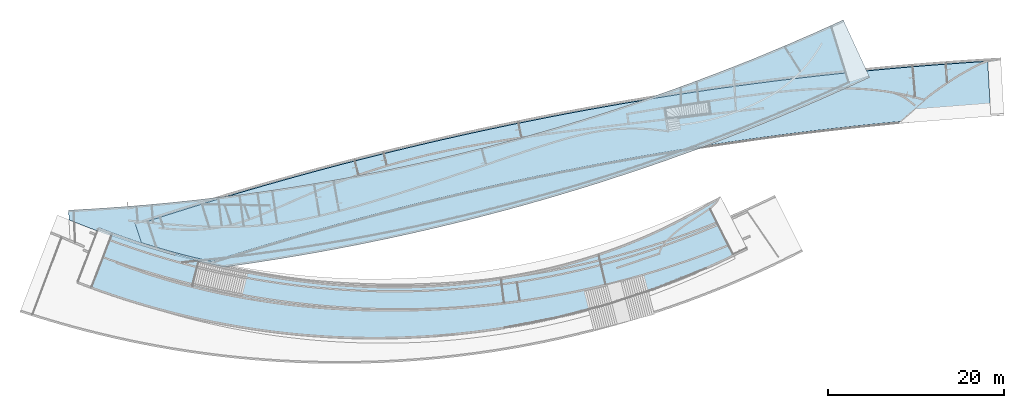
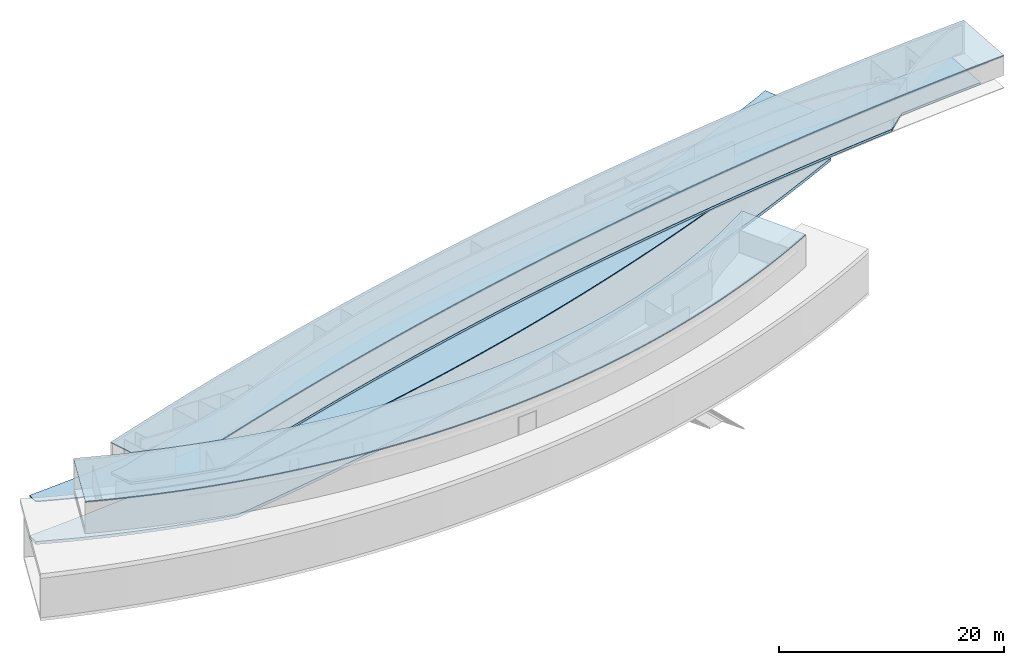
# Not in any storey, part 2 of 16: 6 slabs, 2 openings.
"""IFC2X3 model written with IfcOpenShell, lengths in millimetres."""

from ifc_helpers import new_model, entity, si_unit, converted_unit, point, direction, frame, frame_2d, origin_with_axes, place, context, project, spatial, polyline, circle_curve, trimmed, segment, composite_curve, outline, extrude, material, layer, layer_set, type_object, element, save


model = new_model("IFC2X3")

# Units and contexts
model_context = context("Model", 3, precision=1.0, world=origin_with_axes(), true_north=direction((0.0, 1.0)))
ifc_project = project(units=[converted_unit("PLANEANGLEUNIT", "DEGREE", entity("IfcRatioMeasure", 0.017453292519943), si_unit("PLANEANGLEUNIT", "RADIAN"), dimensions=[0, 0, 0, 0, 0, 0, 0]), si_unit("LENGTHUNIT", "METRE", prefix="MILLI")], contexts=[model_context])

# Site
site_placement = place(None, origin_with_axes())
site = spatial("IfcSite", under=ifc_project, at=site_placement, Name="Site", CompositionType="ELEMENT")

# Slabs
ifc_material_1 = material(Name="Slab layer 1")
ifc_layer_1 = layer(ifc_material_1, 320.0)
ifc_layer_set_1 = layer_set([ifc_layer_1], Name="HOKI 1FB")
slab_type_1 = type_object("IfcSlabType", Name="HOKI 1FB", PredefinedType="FLOOR", material=ifc_layer_set_1)
slab_1_placement = place(site_placement, frame((33904.2471701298, 18996.7153902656, 4720.00566737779), z_axis=(0.0, 0.0, 1.0), x_axis=(-0.908151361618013, -0.418641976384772, 0.0)))
element("IfcSlab", 1, at=slab_1_placement, inside=site, type_object=slab_type_1, ObjectType="HOKI 1FB", PredefinedType="FLOOR", context=model_context, shape_type="SweptSolid", body=[
    extrude(outline(composite_curve([segment(polyline([(75580.1296516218, 3959.976035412), (76049.9234560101, 4306.54949842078), (76517.300696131, 4655.68838417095), (76982.2410070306, 5007.36813499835), (77444.7243485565, 5361.56398669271), (77904.7310078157, 5718.25097375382), (78362.241601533, 6077.40393467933), (78817.2370783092, 6438.99751728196), (79269.698720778, 6803.00618403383), (79719.6081476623, 7169.4042174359), (80166.9473157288, 7538.1657254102), (80611.6985216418, 7909.26464671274), (81053.8444037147, 8282.67475636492), (81493.3679435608, 8658.36967110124), (81930.2524676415, 9036.32285483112), (82364.4816487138, 9416.50762411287), (82796.0395071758, 9798.89715363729), (83224.9104123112, 10183.4644817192), (83651.0790834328, 10570.1825157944), (84074.5305909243, 10959.0240379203), (84495.2503571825, 11349.9617102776), (84913.224157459, 11742.9680806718), (85328.4381206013, 12138.0155880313), (85740.8787296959, 12535.0765679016), (86150.5328226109, 12934.1232579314), (86557.3875924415, 13335.1278033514), (86961.4305878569, 13738.0622624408), (87362.6497133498, 14142.8986119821), (87761.0332293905, 14549.6087527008), (88156.5697524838, 14958.1645146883), (88549.2482551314, 15368.5376628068), (88939.0580657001, 15780.6999020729), (89325.988868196, 16194.6228830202)]), True, "CONTINUOUS"), segment(polyline([(89325.988868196, 16194.6228830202), (88920.2873660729, 17203.8370704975)]), True, "CONTINUOUS"), segment(trimmed(circle_curve(frame_2d((2.91038e-10, 238399.999999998), x_axis=(0.37298778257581, -0.927836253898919)), 238399.999999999), [point((88920.2873660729, 17203.8370704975))], [point((0.0, 0.0))], False, "CARTESIAN"), True, "CONTINUOUS"), segment(polyline([(0.0, 0.0), (-4.0018e-11, -7180.77555804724)]), True, "CONTINUOUS"), segment(trimmed(circle_curve(frame_2d((905.658354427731, 248617.621197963), x_axis=(-0.003540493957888, -0.999993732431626)), 255800.0), [point((-4.0018e-11, -7180.77555804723))], [point((75580.1296516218, 3959.97603541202))], True, "CARTESIAN"), True, "CONTINUOUS")], self_intersect="UNKNOWN")), frame((0.0, 0.0, -320.0), z_axis=(0.0, 0.0, -1.0), x_axis=(1.0, 0.0, 0.0)), (0.0, 0.0, -1.0), 320.0),
])
ifc_material_2 = material(Name="Slab layer 1")
ifc_layer_2 = layer(ifc_material_2, 100.0)
ifc_layer_set_2 = layer_set([ifc_layer_2], Name="HOKI slab")
slab_type_2 = type_object("IfcSlabType", Name="HOKI slab", PredefinedType="FLOOR", material=ifc_layer_set_2)
slab_2_placement = place(site_placement, frame((-42975.4483566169, -10109.9417746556, 12800.0), z_axis=(0.0, 0.0, 1.0), x_axis=(-0.314163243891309, 0.949368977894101, 0.0)))
element("IfcSlab", 2, at=slab_2_placement, inside=site, type_object=slab_type_2, ObjectType="HOKI slab", PredefinedType="FLOOR", context=model_context, shape_type="SweptSolid", body=[
    extrude(outline(composite_curve([segment(polyline([(3487.55827410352, 3.638e-12), (3026.26912833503, 669.085234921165), (2571.24312380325, 1342.44592134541), (2122.51862550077, 2020.02261602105), (1680.13399842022, 2701.75587569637), (1244.12760755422, 3387.58625711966), (814.537817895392, 4077.45431703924), (391.402994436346, 4771.3006122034), (-25.2384978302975, 5469.06569936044)]), True, "CONTINUOUS"), segment(polyline([(-25.2384978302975, 5469.06569936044), (-44.6927169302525, 6875.70976256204), (-69.4562362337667, 8282.56209764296), (-99.5317724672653, 9689.59272156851), (-134.921817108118, 11096.7716196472), (-175.628635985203, 12504.0687476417), (-221.654268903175, 13911.4540338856), (-273.000529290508, 15318.8973814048), (-329.669003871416, 16726.368670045), (-391.661052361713, 18133.8377586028), (-458.977807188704, 19541.2744869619), (-531.620173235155, 20948.6486782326), (-609.588827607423, 22355.9301408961), (-692.884219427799, 23763.0886709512), (-781.506569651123, 25170.0940540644), (-875.45587090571, 26576.9160677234), (-974.73188735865, 27983.5244833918), (-1079.3341546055, 29389.8890686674), (-1189.26197958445, 30795.9795894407), (-1304.51444051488, 32201.7658120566), (-1425.09038686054, 33607.2175054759), (-1550.9884393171, 35012.3044434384), (-1682.20698982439, 36416.9964066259), (-1818.74420160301, 37821.2631848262), (-1960.59800921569, 39225.0745790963), (-2107.76611865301, 40628.4004039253), (-2260.2460074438, 42031.2104893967), (-2418.03492479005, 43433.4746833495), (-2581.12989172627, 44835.1628535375), (-2749.52770130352, 46236.2448897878), (-2923.22491879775, 47636.6907061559), (-3102.2178819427, 49036.4702430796), (-3286.50270118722, 50435.5534695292), (-3476.07525997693, 51833.9103851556), (-3670.93121506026, 53231.5110224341), (-3871.06599681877, 54628.3254488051), (-4076.47480962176, 56024.3237688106), (-4287.15263220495, 57419.4761262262), (-4503.09421807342, 58813.752706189), (-4724.29409592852, 60207.1237373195), (-4950.74657011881, 61599.5594938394), (-5182.44572111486, 62991.0302976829), (-5419.3854060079, 64381.5065206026), (-5661.55925903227, 65770.9585862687), (-5908.96069211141, 67159.3569723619), (-6161.58289542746, 68546.6722126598), (-6419.41883801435, 69932.8748991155), (-6682.46126837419, 71317.935683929), (-6950.70271511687, 72701.8252816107), (-7224.13548762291, 74084.5144710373), (-7502.75167672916, 75465.9740974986), (-7786.5431554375, 76846.1750747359), (-8075.50157964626, 78225.0883869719), (-8369.61838890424, 79602.6850909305), (-8668.88480718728, 80978.9363178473), (-8973.29184369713, 82353.8132754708), (-9282.8302936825, 83727.2872500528), (-9597.49073928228, 85099.3296083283), (-9917.26355039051, 86469.9117994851), (-10242.1388855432, 87839.0053571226), (-10572.1066928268, 89206.5819011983), (-10907.1567108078, 90572.6131399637), (-11247.2784694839, 91937.0708718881), (-11592.461291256, 93299.9269875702), (-11942.6942919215, 94661.1534716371)]), True, "CONTINUOUS"), segment(polyline([(-11942.6942919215, 94661.1534716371), (-6130.88627316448, 96225.3753757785)]), True, "CONTINUOUS"), segment(polyline([(-6130.88627316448, 96225.3753757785), (-5745.35739421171, 94758.3993932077), (-5365.57286535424, 93289.5403084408), (-4991.54591059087, 91818.8317587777), (-4623.28949203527, 90346.3075017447), (-4260.81630857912, 88872.0014125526), (-3904.13879458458, 87395.947481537), (-3553.26911860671, 85918.1798115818), (-3208.21918214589, 84438.7326155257), (-2869.00061843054, 82957.6402135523), (-2535.62479123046, 81474.9370305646), (-2208.10279370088, 79990.6575935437), (-1886.44544725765, 78504.8365288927), (-1570.66330048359, 77017.5085597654), (-1260.76662806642, 75528.7085033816), (-956.765429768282, 74038.4712683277), (-658.669429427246, 72546.8318518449), (-366.48807399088, 71053.8253371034), (-80.2305325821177, 69559.4868904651), (200.094304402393, 68063.8517587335), (474.477826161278, 66566.955266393), (742.911702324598, 65068.8328128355), (1005.38788375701, 63569.5198695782), (1261.8986033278, 62069.0519774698), (1512.43637664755, 60567.4647438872), (1756.99400277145, 59064.7938399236), (1995.56456486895, 57561.0749975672), (2228.14143085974, 56056.344006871), (2454.71825401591, 54550.6367131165), (2675.28897353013, 53043.9890139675), (2889.84781504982, 51536.4368566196), (3098.38929117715, 50028.0162349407), (3300.90820193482, 48518.7631866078), (3497.39963519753, 47008.7137902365), (3687.85896708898, 45497.9041625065), (3872.28186234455, 43986.3704552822), (4050.66427463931, 42474.1488527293), (4223.00244688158, 40961.2755684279), (4389.29291147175, 39447.7868424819), (4549.53249052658, 37933.7189386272), (4703.71829606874, 36419.108141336), (4851.84773018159, 34903.9907529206), (4993.91848512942, 33388.403090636), (5129.92854344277, 31872.3814837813), (5259.87617796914, 30355.962270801), (5383.759951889, 28839.1817963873), (5501.57871869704, 27322.0764085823), (5613.3316221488, 25804.6824558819), (5719.01809617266, 24287.0362843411), (5818.6378647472, 22769.1742346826), (5912.19094174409, 21251.1326394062), (5999.67763073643, 19732.9478199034), (6081.09852477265, 18214.6560835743), (6156.45450611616, 16696.2937209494), (6225.74674595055, 15177.8970028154), (6288.97670405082, 13659.5021773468), (6346.1461284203, 12141.1454672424), (6397.25705489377, 10622.8630668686), (6442.31180670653, 9104.69113940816), (6481.3129940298, 7586.66581401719), (6514.26351347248, 6068.82318298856), (6541.16654754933, 4551.19929892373), (6562.02556411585, 3033.83017191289), (6576.84431576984, 1516.75176672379), (6585.62683922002, -3.639e-12)]), True, "CONTINUOUS"), segment(polyline([(6585.62683922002, -3.639e-12), (3487.55827410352, 3.638e-12)]), True, "CONTINUOUS")], self_intersect="UNKNOWN")), frame((9.09e-13, 0.0, -100.0), z_axis=(-1e-15, 0.0, -1.0), x_axis=(1.0, 0.0, 0.0)), (-1e-15, 0.0, -1.0), 100.0),
])

# Slab, opening
slab_3_placement = place(site_placement, frame((-54051.081229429, -2605.36139274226, 9100.0), z_axis=(0.0, 0.0, 1.0), x_axis=(0.998764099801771, 0.049701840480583, 0.0)))
slab_3 = element("IfcSlab", 3, at=slab_3_placement, inside=site, type_object=slab_type_2, ObjectType="HOKI slab", PredefinedType="FLOOR", context=model_context, shape_type="SweptSolid", body=[
    extrude(outline(composite_curve([segment(polyline([(17317.2803204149, -7312.41856482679), (16752.1209293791, -7166.08249057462), (16188.2468429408, -7016.46477514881), (15625.6861161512, -6863.58060816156), (15064.4665797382, -6707.44549201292), (14504.615835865, -6548.07523793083), (13946.1612539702, -6385.48596194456), (13389.1299666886, -6219.69408079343), (12833.5488658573, -6050.71630777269), (12279.4445986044, -5878.5696485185), (11726.8435635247, -5703.27139673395), (11175.7719069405, -5524.83912985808), (10626.2555192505, -5343.29070467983), (10078.3200313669, -5158.64425289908), (9531.99081124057, -4970.91817663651), (8987.29296047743, -4780.13114389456), (8444.25131104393, -4586.30208397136), (7902.89042206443, -4389.45018282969), (7363.23457671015, -4189.59487842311), (6825.3077791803, -3986.75585598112), (6289.13375177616, -3780.95304325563), (5754.73593206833, -3572.20660573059), (5222.1374701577, -3360.53694179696), (4691.36122603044, -3145.96467789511), (4162.42976700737, -2928.51066362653), (3635.36536528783, -2708.19596683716), (3110.18999558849, -2485.04186867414), (2586.92533287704, -2259.06985861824), (2065.592750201, -2030.3016294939), (1546.21331661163, -1798.75907245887), (1028.80779518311, -1564.4642719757), (513.396641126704, -1327.43950076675), (9.1226e-11, -1087.70721475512)]), True, "CONTINUOUS"), segment(polyline([(9.1226e-11, -1087.70721475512), (0.0, 0.0)]), True, "CONTINUOUS"), segment(trimmed(circle_curve(frame_2d((-2.54659e-10, 238400.000000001), x_axis=(1e-15, -1.0)), 238400.000000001), [point((0.0, 0.0))], [point((88920.2873660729, 17203.8370704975))], True, "CARTESIAN"), True, "CONTINUOUS"), segment(polyline([(88920.2873660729, 17203.8370704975), (91598.6289186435, 10541.25317663)]), True, "CONTINUOUS"), segment(trimmed(circle_curve(frame_2d((-4651.35052871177, 247542.479874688), x_axis=(0.376270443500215, -0.926509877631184)), 255800.000000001), [point((91598.6289186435, 10541.25317663))], [point((17317.280320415, -7312.41856482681))], False, "CARTESIAN"), True, "CONTINUOUS")], self_intersect="UNKNOWN")), frame((7.276e-12, 4.41e-13, -100.0), z_axis=(0.0, 0.0, 1.0), x_axis=(1.0, 0.0, 0.0)), (0.0, 0.0, 1.0), 100.0),
])
opening_1_placement = place(site_placement, frame((-54051.081229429, -2605.36139274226, 9100.0), z_axis=(0.0, 0.0, 1.0), x_axis=(0.998764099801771, 0.049701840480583, 0.0)))
element("IfcOpeningElement", 4, at=opening_1_placement, cuts=slab_3, context=model_context, shape_type="SweptSolid", body=[
    extrude(outline(composite_curve([segment(polyline([(73391.7681452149, 7373.92482770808), (72029.5513789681, 7281.88989998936), (70800.1540408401, 7200.83329816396), (68346.5474040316, 7044.01433406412)]), True, "CONTINUOUS"), segment(polyline([(68346.5474040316, 7044.01433406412), (68224.964802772, 8153.77536016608)]), True, "CONTINUOUS"), segment(polyline([(68224.964802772, 8153.77536016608), (69055.8668793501, 8250.25090800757), (69786.4963292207, 8332.28457293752), (70438.5549212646, 8402.4970241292), (71033.7444243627, 8463.5089307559), (71593.7666073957, 8517.94096199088), (72140.3232392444, 8568.41378700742), (73279.8469249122, 8667.96449507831)]), True, "CONTINUOUS"), segment(polyline([(73279.8469249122, 8667.96449507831), (73391.7681452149, 7373.92482770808)]), True, "CONTINUOUS")], self_intersect="UNKNOWN")), frame((7.276e-12, 4.41e-13, -100.0), z_axis=(0.0, 0.0, 1.0), x_axis=(1.0, 0.0, 0.0)), (0.0, 0.0, 1.0), 100.0),
])

# Slabs
slab_4_placement = place(site_placement, frame((-53082.7506335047, -10869.0505848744, 13100.0), z_axis=(0.0, 0.0, 1.0), x_axis=(0.360286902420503, 0.932841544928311, 0.0)))
element("IfcSlab", 5, at=slab_4_placement, inside=site, type_object=slab_type_2, ObjectType="HOKI slab", PredefinedType="FLOOR", context=model_context, shape_type="SweptSolid", body=[
    extrude(outline(composite_curve([segment(polyline([(35355.5549691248, 64462.9327943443), (34943.8928901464, 64152.2172558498), (34534.14036817, 63837.6444708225), (34126.3300679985, 63519.2191394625), (33720.494579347, 63196.9464631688), (33316.6664096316, 62870.8321466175), (32914.87797673, 62540.8823996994), (32515.1616017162, 62207.1039393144), (32117.5495015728, 61869.5039910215), (31722.0737818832, 61528.090290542), (31328.766429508, 61182.8710851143), (30937.6593052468, 60833.8551346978), (30548.7841364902, 60481.0517130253), (30162.1725098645, 60124.4706085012), (29777.8558638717, 59764.1221249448), (29395.8654815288, 59400.0170821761), (29016.2324830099, 59032.1668164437), (28638.987818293, 58660.5831806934), (28264.1622598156, 58285.2785446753), (27891.7863951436, 57906.2657948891), (27521.8906196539, 57523.5583343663), (27154.505129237, 57137.1700822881), (26789.6599130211, 56747.1154734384), (26427.3847461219, 56353.4094574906), (26067.7091824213, 55956.0674981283), (25710.6625473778, 55555.1055719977), (25356.2739308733, 55150.5401674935), (25004.5721800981, 54742.3882833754), (24655.5858924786, 54330.6674272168), (24309.3434086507, 53915.3956136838), (23965.8728054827, 53496.5913626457), (23625.2018891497, 53074.2736971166), (23287.358188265, 52648.4621410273), (22952.3689470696, 52219.1767168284), (22620.2611186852, 51786.4379429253), (22291.0613584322, 51350.2668309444), (21964.7960172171, 50910.6848828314), (21641.4911349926, 50467.7140877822), (21321.1724342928, 50021.3769190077), (21003.865313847, 49571.6963303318), (20689.5948422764, 49118.695752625), (20378.3857518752, 48662.3990900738), (20070.2624324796, 48202.8307162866), (19765.2489254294, 47740.0154702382), (19463.3689176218, 47273.9786520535), (19164.645735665, 46804.746018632), (18869.1023401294, 46332.3437791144), (18576.7613199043, 45856.7985901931), (18287.6448866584, 45378.1375512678), (18001.7748694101, 44896.3881994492), (17719.1727092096, 44411.5785044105), (17439.8594539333, 43923.7368630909), (17163.8557531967, 43432.892094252), (16891.1818533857, 42939.0734328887), (16621.8575928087, 42442.3105244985), (16355.9023969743, 41942.6334192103), (16093.3352739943, 41440.0725657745), (15834.1748101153, 40934.6588054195), (15578.4391653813, 40426.4233655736), (15326.1460694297, 39915.3978534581), (15077.312817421, 39401.6142495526), (14831.9562661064, 38885.1049009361), (14590.0928300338, 38365.9025145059), (14351.7384778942, 37844.0401500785), (14116.9087290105, 37319.5512133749), (13885.6186499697, 36792.4694488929), (13657.8828514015, 36262.8289326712), (13433.7154849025, 35730.6640649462), (13213.1302401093, 35196.0095627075), (12996.1403419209, 34658.9004521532), (12782.7585478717, 34119.3720610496), (12572.9971456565, 33577.4600109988), (12366.8679508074, 33033.2002096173), (12164.3823045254, 32486.6288426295), (11965.5510716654, 31937.7823658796), (11770.3846388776, 31386.6974972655), (11578.8929129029, 30833.4112085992), (11391.0853190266, 30277.9607173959), (11206.9707996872, 29720.3834785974), (11026.557813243, 29160.7171762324), (10849.8543328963, 28598.9997150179), (10676.8678457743, 28035.2692119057), (10507.6053521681, 27469.5639875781), (10342.0733649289, 26901.9225578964), (10180.277909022, 26332.3836253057), (10022.2245212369, 25760.9860702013), (9867.91825005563, 25187.7689422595), (9717.36365567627, 24612.7714517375), (9570.56481019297, 24036.0329607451), (9427.5252979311, 23457.5929744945), (9288.24821593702, 22877.4911325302), (9152.73617462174, 22295.7671999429), (9020.99129855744, 21712.4610585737), (8893.01522742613, 21127.6126982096), (8768.80911711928, 20541.2622077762), (8648.37364098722, 19953.4497665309), (8531.70899123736, 19364.2156352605), (8418.8148804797, 18773.6001474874), (8309.6905434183, 18181.6437006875), (8204.33473868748, 17588.3867475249), (8102.7457508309, 16993.8697871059), (8004.92139242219, 16398.1333562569), (7910.85900632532, 15801.2180208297), (7820.55546809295, 15203.1643670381), (7734.0071885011, 14604.0129928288), (7651.21011621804, 14003.8044992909), (7572.15974060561, 13402.5794821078), (7496.85109465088, 12800.3785230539), (7425.27875802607, 12197.2421815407), (7357.43686027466, 11593.2109862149), (7293.31908412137, 10988.3254266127), (7232.9186689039, 10382.6259448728), (7176.22841412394, 9776.15292751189), (7123.2406831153, 9168.94669726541), (7073.94740682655, 8561.04750499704), (7028.34008771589, 7952.49552167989), (6986.40980375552, 7343.33083045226), (6948.14721254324, 6733.59341875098), (6913.54255551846, 6123.32317052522), (6882.5856622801, 5512.55985853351), (6855.26595500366, 4901.34313672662), (6831.5724529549, 4289.71253271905), (6811.49377709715, 3677.70744035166), (6795.01815478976, 3065.36711234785), (6782.13342457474, 2452.73065306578), (6772.82704104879, 1839.83701134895), (6767.086079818, 1226.72497347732), (6764.89724253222, 613.43315622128), (6766.24686199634, 3.68325e-10)]), True, "CONTINUOUS"), segment(polyline([(6766.24686199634, 3.68325e-10), (0.0, 0.0)]), True, "CONTINUOUS"), segment(trimmed(circle_curve(frame_2d((93299.8260896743, 180.14345114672), x_axis=(-0.999998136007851, -0.001930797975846)), 93300.0000001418), [point((0.0, 0.0))], [point((30991.6626204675, 69624.9615812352))], False, "CARTESIAN"), True, "CONTINUOUS"), segment(polyline([(30991.6626204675, 69624.9615812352), (35503.741918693, 64573.5435162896)]), True, "CONTINUOUS"), segment(trimmed(circle_curve(frame_2d((36988.1073204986, 62430.3459249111), x_axis=(-0.56936897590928, 0.822082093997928)), 2607.03597247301), [point((35503.741918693, 64573.5435162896))], [point((35355.5549691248, 64462.9327943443))], True, "CARTESIAN"), True, "CONTINUOUS")], self_intersect="UNKNOWN")), frame((0.0, 0.0, -100.0), z_axis=(0.0, 0.0, -1.0), x_axis=(1.0, 0.0, 0.0)), (0.0, 0.0, -1.0), 100.0),
])
slab_5_placement = place(site_placement, frame((51784.4739892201, 14687.4690084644, 13100.0), z_axis=(0.0, 0.0, 1.0), x_axis=(-0.998395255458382, -0.056629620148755, 0.0)))
element("IfcSlab", 6, at=slab_5_placement, inside=site, type_object=slab_type_2, ObjectType="HOKI slab", PredefinedType="FLOOR", context=model_context, shape_type="SweptSolid", body=[
    extrude(outline(composite_curve([segment(trimmed(circle_curve(frame_2d((63566.4243186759, -71641.2953782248), x_axis=(0.372854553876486, 0.927889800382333)), 93879.0548364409), [point((98569.6574280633, 15468.1220740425))], [point((90765.3302159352, 18211.3420620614))], True, "CARTESIAN"), True, "CONTINUOUS"), segment(trimmed(circle_curve(frame_2d((-1933.02254818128, 379405.784703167), x_axis=(0.248587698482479, -0.968609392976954)), 372900.0), [point((90765.3302159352, 18211.3420620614))], [point((-1.16415e-10, 6510.79489527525))], False, "CARTESIAN"), True, "CONTINUOUS"), segment(polyline([(-1.23691e-10, 6510.79489527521), (0.0, 0.0)]), True, "CONTINUOUS"), segment(trimmed(circle_curve(frame_2d((3.81988e-10, 381699.999999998), x_axis=(-1e-15, -1.0)), 381699.999999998), [point((0.0, 0.0))], [point((99202.5656345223, 13116.5752892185))], True, "CARTESIAN"), True, "CONTINUOUS"), segment(polyline([(99202.5656345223, 13116.5752892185), (98569.6574280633, 15468.1220740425)]), True, "CONTINUOUS")], self_intersect="UNKNOWN")), frame((0.0, 1.819e-12, -100.0), z_axis=(0.0, 0.0, 1.0), x_axis=(1.0, 0.0, 0.0)), (0.0, 0.0, 1.0), 100.0),
])

# Slab, opening
ifc_material_3 = material(Name="Slab layer 1")
ifc_layer_3 = layer(ifc_material_3, 250.0)
ifc_layer_set_3 = layer_set([ifc_layer_3], Name="HOKI 1FA")
slab_type_3 = type_object("IfcSlabType", Name="HOKI 1FA", PredefinedType="FLOOR", material=ifc_layer_set_3)
slab_6_placement = place(site_placement, frame((40112.1622818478, 7245.54301422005, 9850.0), z_axis=(0.0, 0.0, 1.0), x_axis=(0.758316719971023, 0.651886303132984, 0.0)))
slab_6 = element("IfcSlab", 7, at=slab_6_placement, inside=site, type_object=slab_type_3, ObjectType="HOKI 1FA", PredefinedType="FLOOR", context=model_context, shape_type="SweptSolid", body=[
    extrude(outline(composite_curve([segment(polyline([(-73941.0766536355, 45733.8591096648), (-73655.1960937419, 45272.4652242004), (-73366.4431087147, 44812.8635006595), (-73074.8297241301, 44355.0712493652), (-72780.3679655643, 43899.1057806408), (-72483.0698585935, 43444.9844048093), (-72182.9474287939, 42992.7244321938), (-71880.0127017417, 42542.3431731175), (-71574.2777030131, 42093.8579379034), (-71265.7544581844, 41647.2860368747), (-70954.4549928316, 41202.6447803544), (-70640.3913325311, 40759.9514786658), (-70323.5755028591, 40319.2234421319), (-70004.0195293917, 39880.4779810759), (-69681.7354377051, 39443.7324058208), (-69356.7352533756, 39009.0040266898), (-69029.0310019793, 38576.310154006)]), True, "CONTINUOUS"), segment(polyline([(-69029.0310019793, 38576.310154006), (-67893.712575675, 38089.554872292), (-66759.8073314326, 37598.952118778), (-65627.3347565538, 37104.507935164), (-64496.3143047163, 36606.2284943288), (-63366.7653948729, 36104.1201001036), (-62238.7074101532, 35598.1891870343), (-61112.159696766, 35088.4423201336), (-59987.1415629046, 34574.8861946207), (-58863.6722776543, 34057.5276356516), (-57741.7710699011, 33536.3735980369), (-56621.457127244, 33011.43116595), (-55502.7495949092, 32482.7075526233), (-54385.6675746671, 31950.2101000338), (-53270.230123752, 31413.9462785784), (-52156.4562537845, 30873.9236867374), (-51044.3649296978, 30330.1500507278), (-49933.9750686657, 29782.6332241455), (-48825.3055390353, 29231.3811875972), (-47718.3751592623, 28676.4020483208), (-46613.20269685, 28117.7040397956), (-45509.806867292, 27555.2955213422), (-44408.2063330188, 26989.1849777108), (-43308.4197023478, 26419.3810186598), (-42210.4655284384, 25845.8923785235), (-41114.3623082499, 25268.7279157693), (-40020.1284815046, 24687.8966125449), (-38927.7824296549, 24103.4075742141), (-37837.3424748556, 23515.2700288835), (-36748.8268789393, 22923.4933269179), (-35662.2538423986, 22328.0869404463), (-34577.6415033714, 21729.0604628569), (-33495.0079366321, 21126.4236082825), (-32414.3711525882, 20520.1862110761), (-31335.7490962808, 19910.3582252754), (-30259.1596463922, 19296.9497240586), (-29184.6206142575, 18679.9708991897), (-28112.1497428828, 18059.4320604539), (-27041.7647059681, 17435.3436350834), (-25973.4831069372, 16807.7161671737), (-24907.3224779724, 16176.56031709), (-23843.3002790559, 15541.8868608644), (-22781.4338970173, 14903.7066895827), (-21721.7406445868, 14262.0308087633), (-20664.2377594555, 13616.8703377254), (-19608.9424033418, 12968.2365089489), (-18555.8716610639, 12316.1406674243), (-17505.0425396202, 11660.5942699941), (-16456.4719672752, 11001.6088846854), (-15410.176792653, 10339.1961900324), (-14366.1737838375, 9673.3679743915), (-13324.47962748, 9004.13613524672), (-12285.1109279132, 8331.51267850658), (-11248.084206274, 7655.50971779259), (-10213.4158996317, 6976.13947371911), (-9181.12236012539, 6293.41427316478), (-8151.21985410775, 5607.34654853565), (-7123.72456129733, 4917.94883702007), (-6098.65257393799, 4225.2337798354), (-5076.01989596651, 3529.21412146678), (-4055.84244218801, 2829.90270889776), (-3038.13603745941, 2127.31249083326), (-2022.91641588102, 1421.45651691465), (-1010.19921999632, 712.347936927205), (0.0, 0.0)]), True, "CONTINUOUS"), segment(polyline([(0.0, 0.0), (2586.46379028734, -7.1037e-11)]), True, "CONTINUOUS"), segment(polyline([(2586.46379028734, -7.1037e-11), (3452.28283569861, -621.912036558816), (4316.19202840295, -1246.188525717), (5178.18174719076, -1872.82072800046), (6038.2424238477, -2501.79985213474), (6896.36454350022, -3133.11705544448), (7752.5386449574, -3766.7634442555), (8606.75532104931, -4402.73007429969), (9459.00521896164, -5041.00795112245)]), True, "CONTINUOUS"), segment(polyline([(9459.00521896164, -5041.00795112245), (12327.4127221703, -1294.38456321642)]), True, "CONTINUOUS"), segment(polyline([(12327.4127221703, -1294.38456321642), (11117.6189550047, -379.480162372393), (9903.89728059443, 530.829109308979), (8686.27377042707, 1436.51821940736), (7464.77470685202, 2337.56233190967), (6239.42658123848, 3233.93680941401), (5010.25609210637, 4125.61721531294), (3777.29014322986, 5012.5793159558), (2540.55584171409, 5894.79908278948), (1300.08049604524, 6772.25269447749), (55.891614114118, 7644.91653899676), (-1191.98309878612, 8512.7672157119), (-2443.51574198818, 9375.78153742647), (-3698.67822150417, 10233.9365324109), (-4957.44225210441, 11087.209446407), (-6219.77935942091, 11935.5777446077), (-7485.66088207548, 12779.0191136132), (-8755.05797383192, 13617.511463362), (-10027.9416057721, 14451.0329290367), (-11304.2825684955, 15279.5618729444), (-12584.0514743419, 16103.0768863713), (-13867.2187596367, 16921.5567914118), (-15153.7546869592, 17734.9806427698), (-16443.6293474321, 18543.3277295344), (-17736.8126630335, 19346.5775769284), (-19033.2743889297, 20144.7099480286), (-20332.9841158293, 20937.7048454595), (-21635.9112723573, 21725.5425130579), (-22942.0251274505, 22508.2034375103), (-24251.2947927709, 23285.668349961), (-25563.6892251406, 24057.9182275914), (-26879.1772289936, 24824.9342951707), (-28197.727458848, 25586.6980265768), (-29519.3084217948, 26343.1911462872), (-30843.8884800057, 27094.3956308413), (-32171.4358532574, 27840.2937102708), (-33501.918621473, 28580.8678695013), (-34835.3047272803, 29316.1008497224), (-36171.5619785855, 30045.9756497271), (-37510.6580511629, 30770.4755272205), (-38852.5604912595, 31489.5840000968), (-40197.236718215, 32203.2848476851), (-41544.6540270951, 32911.5621119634), (-42894.7795913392, 33614.4000987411), (-44247.5804654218, 34311.7833788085), (-45603.023587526, 35003.6967890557), (-46961.0757822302, 35690.1254335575), (-48321.7037632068, 36371.0546846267), (-49684.8741359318, 37046.4701838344), (-51050.5534004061, 37716.3578429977), (-52418.7079538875, 38380.7038451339), (-53789.3040936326, 39039.4946453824), (-55162.3080196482, 39692.7169718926), (-56537.6858374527, 40340.3578266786), (-57915.4035608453, 40982.4044864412), (-59295.4271146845, 41618.8445033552), (-60677.7223376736, 42249.6657058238), (-62062.2549851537, 42874.856199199), (-63448.9907319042, 43494.4043664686), (-64837.8951749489, 44108.2988689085), (-66228.9338363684, 44716.5286467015), (-67622.072166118, 45319.0829195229), (-69017.2755448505, 45915.9511870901), (-70414.5092867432, 46507.1232296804), (-71813.7386423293, 47092.5891086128)]), True, "CONTINUOUS"), segment(polyline([(-71813.7386423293, 47092.5891086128), (-73048.8575587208, 47901.3720374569)]), True, "CONTINUOUS"), segment(polyline([(-73048.8575587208, 47901.3720374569), (-73153.535041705, 47647.0737390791)]), True, "CONTINUOUS"), segment(polyline([(-73153.535041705, 47647.0737390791), (-73941.0766536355, 45733.8591096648)]), True, "CONTINUOUS")], self_intersect="UNKNOWN")), frame((0.0, 0.0, -250.000000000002), z_axis=(0.0, 0.0, 1.0), x_axis=(1.0, 0.0, 0.0)), (0.0, 0.0, 1.0), 250.0),
])
opening_2_placement = place(site_placement, frame((40112.1622818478, 7245.54301422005, 9850.0), z_axis=(0.0, 0.0, 1.0), x_axis=(0.758316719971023, 0.651886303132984, 0.0)))
element("IfcOpeningElement", 8, at=opening_2_placement, cuts=slab_6, context=model_context, shape_type="SweptSolid", body=[
    extrude(outline(composite_curve([segment(polyline([(-15340.8218320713, 14719.5548715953), (-16473.1260484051, 15482.4389439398), (-17493.7982026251, 16172.5232440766), (-19527.7976656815, 17553.6908298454)]), True, "CONTINUOUS"), segment(polyline([(-19527.7976656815, 17553.6908298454), (-18943.1037928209, 18504.7349608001)]), True, "CONTINUOUS"), segment(polyline([(-18943.1037928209, 18504.7349608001), (-18227.6971719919, 18071.2615947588), (-17600.3423322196, 17687.8886429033), (-17042.2921674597, 17343.3741883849), (-16534.7995716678, 17026.4763143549), (-16059.1174387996, 16725.9531039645), (-15596.4986628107, 16430.5626403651), (-14635.4627572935, 15810.2122861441)]), True, "CONTINUOUS"), segment(polyline([(-14635.4627572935, 15810.2122861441), (-15340.8218320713, 14719.5548715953)]), True, "CONTINUOUS")], self_intersect="UNKNOWN")), frame((0.0, 0.0, -250.000000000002), z_axis=(0.0, 0.0, 1.0), x_axis=(1.0, 0.0, 0.0)), (0.0, 0.0, 1.0), 250.0),
])

save(model, "model.ifc")
